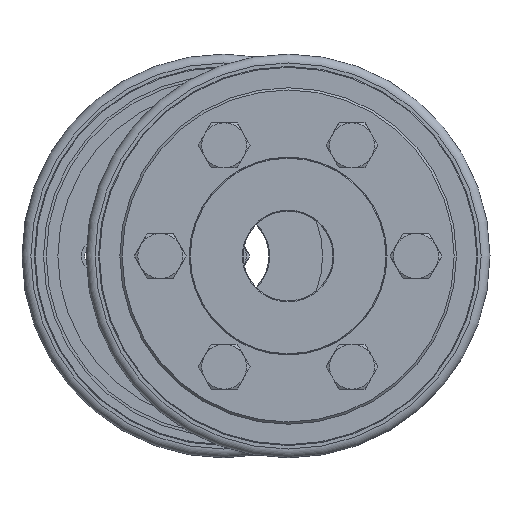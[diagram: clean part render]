
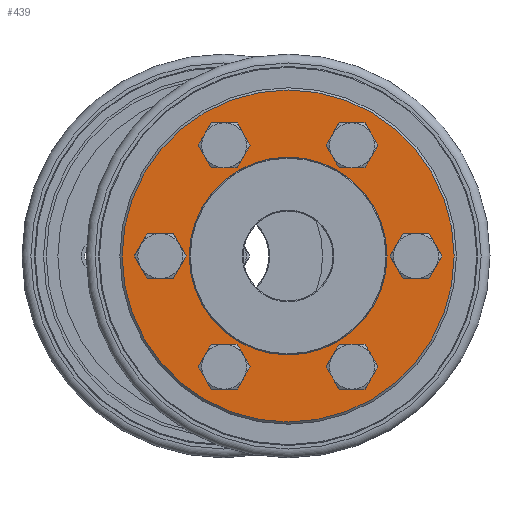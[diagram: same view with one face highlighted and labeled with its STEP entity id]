
A CAD part, left-side view. The second image highlights one B-rep face of the part: STEP entity #439.
In plain terms, the highlighted planar face has unit normal (-1, 0, 0).
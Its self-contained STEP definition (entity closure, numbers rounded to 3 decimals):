
#439 = ADVANCED_FACE( 'NONE', ( #817, #818, #819, #820, #821, #822, #823, #824 ), #825, .F. );
#817 = FACE_OUTER_BOUND( '', #1146, .T. );
#818 = FACE_BOUND( '', #1147, .T. );
#819 = FACE_BOUND( '', #1148, .T. );
#820 = FACE_BOUND( '', #1149, .T. );
#821 = FACE_BOUND( '', #1150, .T. );
#822 = FACE_BOUND( '', #1151, .T. );
#823 = FACE_BOUND( '', #1152, .T. );
#824 = FACE_BOUND( '', #1153, .T. );
#825 = PLANE( '', #1154 );
#1146 = EDGE_LOOP( '', ( #1642 ) );
#1147 = EDGE_LOOP( '', ( #1643 ) );
#1148 = EDGE_LOOP( '', ( #1644 ) );
#1149 = EDGE_LOOP( '', ( #1645 ) );
#1150 = EDGE_LOOP( '', ( #1646 ) );
#1151 = EDGE_LOOP( '', ( #1647 ) );
#1152 = EDGE_LOOP( '', ( #1648 ) );
#1153 = EDGE_LOOP( '', ( #1649 ) );
#1154 = AXIS2_PLACEMENT_3D( '', #1650, #1651, #1652 );
#1642 = ORIENTED_EDGE( '', *, *, #1912, .T. );
#1643 = ORIENTED_EDGE( '', *, *, #1913, .T. );
#1644 = ORIENTED_EDGE( '', *, *, #1914, .T. );
#1645 = ORIENTED_EDGE( '', *, *, #1915, .T. );
#1646 = ORIENTED_EDGE( '', *, *, #1916, .T. );
#1647 = ORIENTED_EDGE( '', *, *, #1917, .T. );
#1648 = ORIENTED_EDGE( '', *, *, #1918, .T. );
#1649 = ORIENTED_EDGE( '', *, *, #1919, .F. );
#1650 = CARTESIAN_POINT( '', ( 0., 22., 0. ) );
#1651 = DIRECTION( '', ( 1., 0., 0. ) );
#1652 = DIRECTION( '', ( 0., 1., 0. ) );
#1912 = EDGE_CURVE( 'NONE', #2127, #2127, #2128, .T. );
#1913 = EDGE_CURVE( 'NONE', #2129, #2129, #2130, .T. );
#1914 = EDGE_CURVE( 'NONE', #2131, #2131, #2132, .T. );
#1915 = EDGE_CURVE( 'NONE', #2133, #2133, #2134, .T. );
#1916 = EDGE_CURVE( 'NONE', #2135, #2135, #2136, .T. );
#1917 = EDGE_CURVE( 'NONE', #2137, #2137, #2138, .T. );
#1918 = EDGE_CURVE( 'NONE', #2139, #2139, #2140, .T. );
#1919 = EDGE_CURVE( 'NONE', #2141, #2141, #2142, .T. );
#2127 = VERTEX_POINT( '', #2321 );
#2128 = CIRCLE( '', #2322, 37. );
#2129 = VERTEX_POINT( '', #2323 );
#2130 = CIRCLE( '', #2324, 3.3 );
#2131 = VERTEX_POINT( '', #2325 );
#2132 = CIRCLE( '', #2326, 3.3 );
#2133 = VERTEX_POINT( '', #2327 );
#2134 = CIRCLE( '', #2328, 3.3 );
#2135 = VERTEX_POINT( '', #2329 );
#2136 = CIRCLE( '', #2330, 3.3 );
#2137 = VERTEX_POINT( '', #2331 );
#2138 = CIRCLE( '', #2332, 3.3 );
#2139 = VERTEX_POINT( '', #2333 );
#2140 = CIRCLE( '', #2334, 3.3 );
#2141 = VERTEX_POINT( '', #2335 );
#2142 = CIRCLE( '', #2336, 22. );
#2321 = CARTESIAN_POINT( '', ( 0., 0., -37. ) );
#2322 = AXIS2_PLACEMENT_3D( '', #2594, #2595, #2596 );
#2323 = CARTESIAN_POINT( '', ( 0., 14.25, 21.382 ) );
#2324 = AXIS2_PLACEMENT_3D( '', #2597, #2598, #2599 );
#2325 = CARTESIAN_POINT( '', ( 0., -14.25, 21.382 ) );
#2326 = AXIS2_PLACEMENT_3D( '', #2600, #2601, #2602 );
#2327 = CARTESIAN_POINT( '', ( 0., -28.5, -3.3 ) );
#2328 = AXIS2_PLACEMENT_3D( '', #2603, #2604, #2605 );
#2329 = CARTESIAN_POINT( '', ( 0., -14.25, -27.982 ) );
#2330 = AXIS2_PLACEMENT_3D( '', #2606, #2607, #2608 );
#2331 = CARTESIAN_POINT( '', ( 0., 14.25, -27.982 ) );
#2332 = AXIS2_PLACEMENT_3D( '', #2609, #2610, #2611 );
#2333 = CARTESIAN_POINT( '', ( 0., 28.5, -3.3 ) );
#2334 = AXIS2_PLACEMENT_3D( '', #2612, #2613, #2614 );
#2335 = CARTESIAN_POINT( '', ( 0., 0., 22. ) );
#2336 = AXIS2_PLACEMENT_3D( '', #2615, #2616, #2617 );
#2594 = CARTESIAN_POINT( '', ( 0., 0., 0. ) );
#2595 = DIRECTION( '', ( -1., 0., 0. ) );
#2596 = DIRECTION( '', ( 0., 0., -1. ) );
#2597 = CARTESIAN_POINT( '', ( 0., 14.25, 24.682 ) );
#2598 = DIRECTION( '', ( 1., 0., 0. ) );
#2599 = DIRECTION( '', ( 0., 0., -1. ) );
#2600 = CARTESIAN_POINT( '', ( 0., -14.25, 24.682 ) );
#2601 = DIRECTION( '', ( 1., 0., 0. ) );
#2602 = DIRECTION( '', ( 0., 0., -1. ) );
#2603 = CARTESIAN_POINT( '', ( 0., -28.5, 0. ) );
#2604 = DIRECTION( '', ( 1., 0., 0. ) );
#2605 = DIRECTION( '', ( 0., 0., -1. ) );
#2606 = CARTESIAN_POINT( '', ( 0., -14.25, -24.682 ) );
#2607 = DIRECTION( '', ( 1., 0., 0. ) );
#2608 = DIRECTION( '', ( 0., 0., -1. ) );
#2609 = CARTESIAN_POINT( '', ( 0., 14.25, -24.682 ) );
#2610 = DIRECTION( '', ( 1., 0., 0. ) );
#2611 = DIRECTION( '', ( 0., 0., -1. ) );
#2612 = CARTESIAN_POINT( '', ( 0., 28.5, 0. ) );
#2613 = DIRECTION( '', ( 1., 0., 0. ) );
#2614 = DIRECTION( '', ( 0., 0., -1. ) );
#2615 = CARTESIAN_POINT( '', ( 0., 0., 0. ) );
#2616 = DIRECTION( '', ( -1., 0., 0. ) );
#2617 = DIRECTION( '', ( 0., 0., 1. ) );
